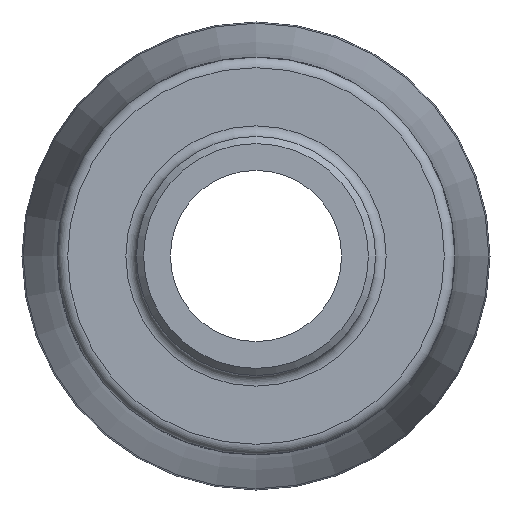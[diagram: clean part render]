
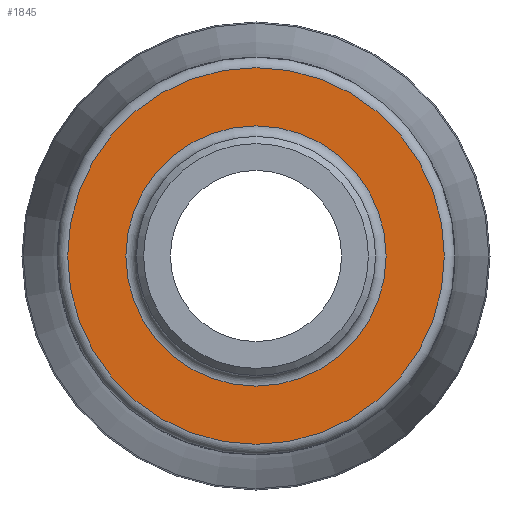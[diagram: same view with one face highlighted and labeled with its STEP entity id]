
A CAD part, left-side view. The second image highlights one B-rep face of the part: STEP entity #1845.
In plain terms, the highlighted planar face has unit normal (-1, 0, 0).
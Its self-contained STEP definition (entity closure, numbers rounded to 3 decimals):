
#194=FACE_BOUND('',#408,.T.);
#208=PLANE('',#2054);
#294=FACE_OUTER_BOUND('',#407,.T.);
#407=EDGE_LOOP('',(#1458,#1459));
#408=EDGE_LOOP('',(#1460,#1461));
#744=CIRCLE('',#2052,11.403);
#745=CIRCLE('',#2053,11.403);
#746=CIRCLE('',#2055,16.5);
#747=CIRCLE('',#2056,16.5);
#881=VERTEX_POINT('',#3251);
#882=VERTEX_POINT('',#3253);
#883=VERTEX_POINT('',#3257);
#884=VERTEX_POINT('',#3258);
#1092=EDGE_CURVE('',#881,#882,#744,.T.);
#1093=EDGE_CURVE('',#882,#881,#745,.T.);
#1094=EDGE_CURVE('',#883,#884,#746,.T.);
#1095=EDGE_CURVE('',#884,#883,#747,.T.);
#1458=ORIENTED_EDGE('',*,*,#1094,.F.);
#1459=ORIENTED_EDGE('',*,*,#1095,.F.);
#1460=ORIENTED_EDGE('',*,*,#1093,.F.);
#1461=ORIENTED_EDGE('',*,*,#1092,.F.);
#1845=ADVANCED_FACE('',(#294,#194),#208,.T.);
#2052=AXIS2_PLACEMENT_3D('',#3254,#2427,#2428);
#2053=AXIS2_PLACEMENT_3D('',#3255,#2429,#2430);
#2054=AXIS2_PLACEMENT_3D('',#3256,#2431,#2432);
#2055=AXIS2_PLACEMENT_3D('',#3259,#2433,#2434);
#2056=AXIS2_PLACEMENT_3D('',#3260,#2435,#2436);
#2427=DIRECTION('center_axis',(-1.,0.,0.));
#2428=DIRECTION('ref_axis',(0.,-1.,0.));
#2429=DIRECTION('center_axis',(-1.,0.,0.));
#2430=DIRECTION('ref_axis',(0.,-1.,0.));
#2431=DIRECTION('center_axis',(-1.,0.,0.));
#2432=DIRECTION('ref_axis',(0.,0.,1.));
#2433=DIRECTION('center_axis',(1.,0.,0.));
#2434=DIRECTION('ref_axis',(0.,-1.,0.));
#2435=DIRECTION('center_axis',(1.,0.,0.));
#2436=DIRECTION('ref_axis',(0.,-1.,0.));
#3251=CARTESIAN_POINT('',(16.,0.,11.403));
#3253=CARTESIAN_POINT('',(16.,11.403,0.));
#3254=CARTESIAN_POINT('Origin',(16.,0.,0.));
#3255=CARTESIAN_POINT('Origin',(16.,0.,0.));
#3256=CARTESIAN_POINT('Origin',(16.,17.425,0.));
#3257=CARTESIAN_POINT('',(16.,16.5,0.));
#3258=CARTESIAN_POINT('',(16.,0.,16.5));
#3259=CARTESIAN_POINT('Origin',(16.,0.,0.));
#3260=CARTESIAN_POINT('Origin',(16.,0.,0.));
